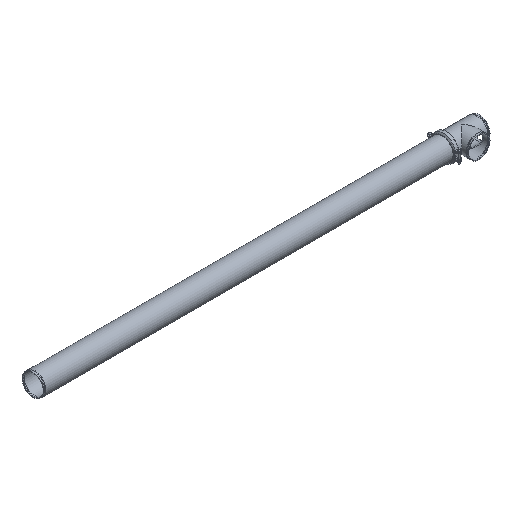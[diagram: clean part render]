
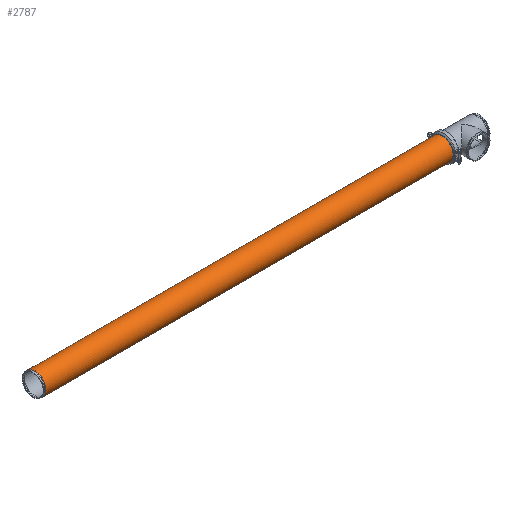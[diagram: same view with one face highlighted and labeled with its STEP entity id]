
A CAD part, isometric view. The second image highlights one B-rep face of the part: STEP entity #2787.
In plain terms, the highlighted cylindrical face has radius 161.925 mm (diameter 323.85 mm), a full revolution.
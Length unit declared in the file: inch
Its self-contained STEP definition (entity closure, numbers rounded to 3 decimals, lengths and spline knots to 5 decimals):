
#349=FACE_OUTER_BOUND('',#530,.T.);
#530=EDGE_LOOP('',(#2384,#2385,#2386,#2387,#2388,#2389));
#715=LINE('',#5439,#892);
#892=VECTOR('',#4014,6.375);
#1025=CIRCLE('',#3196,6.375);
#1026=CIRCLE('',#3197,6.375);
#1027=CIRCLE('',#3199,6.375);
#1028=CIRCLE('',#3200,6.375);
#1281=VERTEX_POINT('',#5430);
#1282=VERTEX_POINT('',#5431);
#1283=VERTEX_POINT('',#5435);
#1284=VERTEX_POINT('',#5436);
#1653=EDGE_CURVE('',#1281,#1282,#1025,.T.);
#1654=EDGE_CURVE('',#1282,#1281,#1026,.T.);
#1655=EDGE_CURVE('',#1283,#1284,#1027,.T.);
#1656=EDGE_CURVE('',#1284,#1283,#1028,.T.);
#1657=EDGE_CURVE('',#1284,#1282,#715,.T.);
#2384=ORIENTED_EDGE('',*,*,#1655,.F.);
#2385=ORIENTED_EDGE('',*,*,#1656,.F.);
#2386=ORIENTED_EDGE('',*,*,#1657,.T.);
#2387=ORIENTED_EDGE('',*,*,#1654,.T.);
#2388=ORIENTED_EDGE('',*,*,#1653,.T.);
#2389=ORIENTED_EDGE('',*,*,#1657,.F.);
#2488=CYLINDRICAL_SURFACE('',#3198,6.375);
#2787=ADVANCED_FACE('',(#349),#2488,.T.);
#3196=AXIS2_PLACEMENT_3D('',#5432,#4004,#4005);
#3197=AXIS2_PLACEMENT_3D('',#5433,#4006,#4007);
#3198=AXIS2_PLACEMENT_3D('',#5434,#4008,#4009);
#3199=AXIS2_PLACEMENT_3D('',#5437,#4010,#4011);
#3200=AXIS2_PLACEMENT_3D('',#5438,#4012,#4013);
#4004=DIRECTION('center_axis',(1.,0.,0.));
#4005=DIRECTION('ref_axis',(0.,0.,-1.));
#4006=DIRECTION('center_axis',(1.,0.,0.));
#4007=DIRECTION('ref_axis',(0.,0.,-1.));
#4008=DIRECTION('center_axis',(1.,0.,0.));
#4009=DIRECTION('ref_axis',(0.,1.,0.));
#4010=DIRECTION('center_axis',(1.,0.,0.));
#4011=DIRECTION('ref_axis',(0.,0.,-1.));
#4012=DIRECTION('center_axis',(1.,0.,0.));
#4013=DIRECTION('ref_axis',(0.,0.,-1.));
#4014=DIRECTION('',(-1.,0.,0.));
#5430=CARTESIAN_POINT('',(-118.781,6.375,0.));
#5431=CARTESIAN_POINT('',(-118.781,-6.375,0.));
#5432=CARTESIAN_POINT('Origin',(-118.781,0.,0.));
#5433=CARTESIAN_POINT('Origin',(-118.781,0.,0.));
#5434=CARTESIAN_POINT('Origin',(0.,0.,0.));
#5435=CARTESIAN_POINT('',(118.781,6.375,0.));
#5436=CARTESIAN_POINT('',(118.781,-6.375,0.));
#5437=CARTESIAN_POINT('Origin',(118.781,0.,0.));
#5438=CARTESIAN_POINT('Origin',(118.781,0.,0.));
#5439=CARTESIAN_POINT('',(0.,-6.375,0.));
